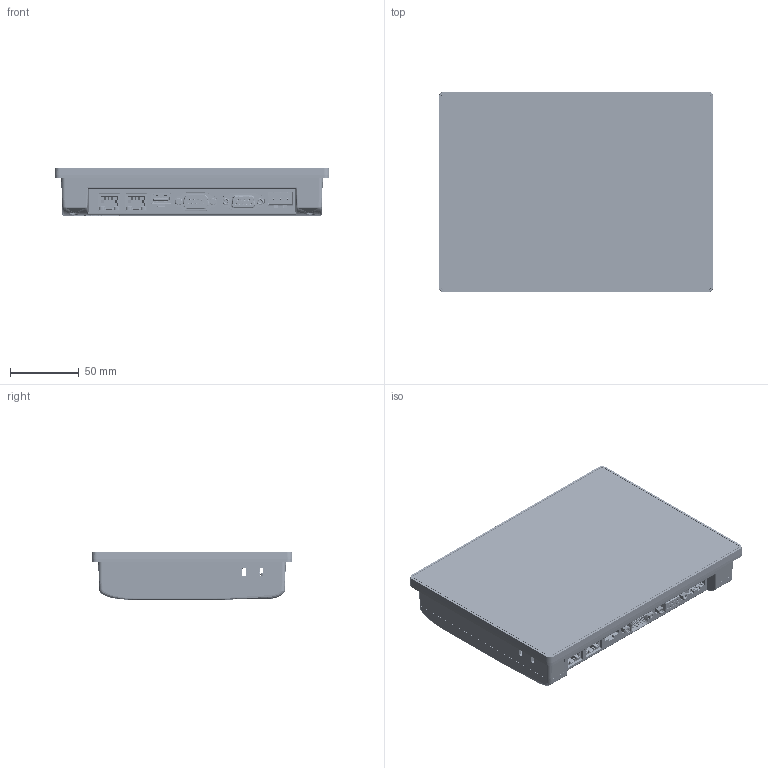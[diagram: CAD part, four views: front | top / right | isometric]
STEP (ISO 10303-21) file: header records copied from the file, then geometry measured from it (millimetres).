
FILE_DESCRIPTION (( 'STEP AP214' ), '1' );
FILE_NAME ('cMT3072X2.STEP', '2023-10-27T04:02:46', ( '' ), ( '' ), 'SwSTEP 2.0', 'SolidWorks 2019', '' );
FILE_SCHEMA (( 'AUTOMOTIVE_DESIGN' ));
Length unit declared in the file: millimetre
Products named in the file (34): Samtec-USB-A-S-F-B-TH; SCREW; FS103008W; GV3072XY00_200114_加大版; DN6902040; DN1098081; led-7吋; L3046-2; D-SUB (F); FEZ807010_120820; P13046; DN19P7200; MI3046; PX30 V4.2-PCBA-230905; 3046105600; cMT3072X2; M3046; FECBP5C10_201130; PRT0001; D-SUB (M); 5EHDRC-XXP; RZ0280212; L3046; FEF378X10_200908; I3046; P23046-S; LAN-light; J099110351-Y-G; SCREW_1; PRT0002_1; PRT0002; FEB378X20_231005
Assembly tree (58 placements, depth 5):
  cMT3072X2
    FEF378X10_200908
    GV3072XY00_200114_加大版
    led-7吋
    PX30 V4.2-PCBA-230905
      5EHDRC-XXP
      DN1098081
        PRT0001
        PRT0002
        SCREW
        PRT0002_1
        SCREW_1
      DN19P7200
      Samtec-USB-A-S-F-B-TH
      3046105600
        MI3046
          M3046
          I3046
        L3046
        L3046-2
        P13046  x4
        P23046-S  x4
      3046105600
        MI3046
          M3046
          I3046
        L3046
        L3046-2
        P13046  x4
        P23046-S  x4
      D-SUB (F)
      D-SUB (M)
      DN6902040
      LAN-light  x2
      J099110351-Y-G  x2
    RZ0280212
    FEB378X20_231005
    FECBP5C10_201130
    FEZ807010_120820
    FS103008W  x6
Bounding box: 200.4 x 146.5 x 35.4 mm (x, y, z)
Volume: 174155.6 mm3; surface area: 237930.4 mm2
Topology: 78 solids, 136 shells, 8092 faces, 23203 edges, 15333 vertices
Faces by surface type: plane 5585, cylinder 1544, bspline 509, cone 288, torus 138, sphere 28
Entity records: 269575 total; most frequent: CARTESIAN_POINT 87238, ORIENTED_EDGE 33329, DIRECTION 27761, EDGE_CURVE 17027, LINE 11861, VECTOR 11861, VERTEX_POINT 11213, AXIS2_PLACEMENT_3D 7950
